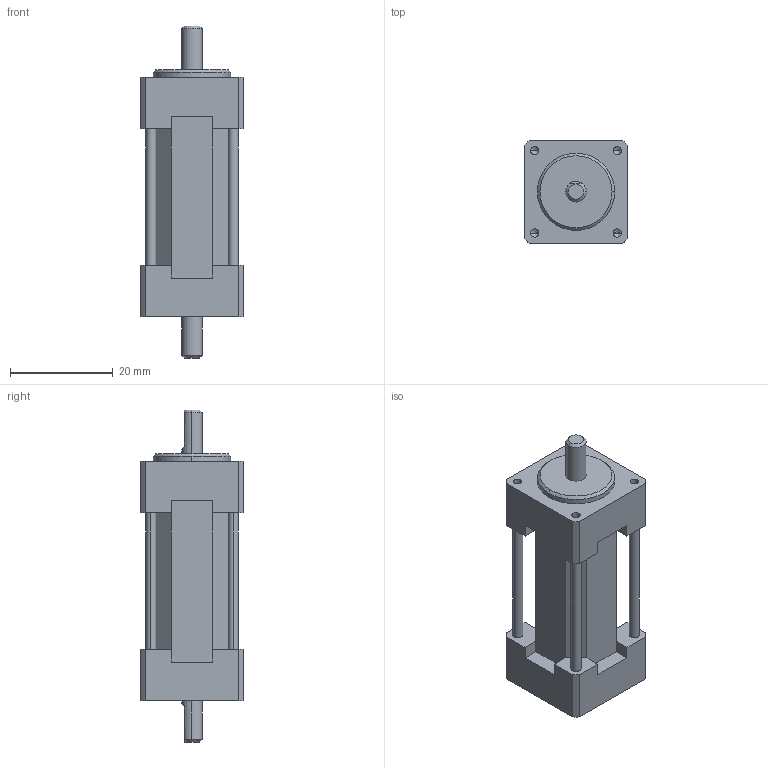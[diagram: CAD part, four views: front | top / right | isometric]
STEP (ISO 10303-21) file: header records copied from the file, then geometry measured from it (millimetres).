
FILE_DESCRIPTION (( 'STEP AP214' ), '1' );
FILE_NAME ('TS3682N12.STEP', '2016-09-09T06:30:58', ( 'hoho' ), ( '' ), 'SwSTEP 2.0', 'SolidWorks 2013', '' );
FILE_SCHEMA (( 'AUTOMOTIVE_DESIGN' ));
Length unit declared in the file: millimetre
Products named in the file (1): TS3682N12
Bounding box: 20 x 20 x 64.5 mm (x, y, z)
Volume: 12936.5 mm3; surface area: 5230.7 mm2
Topology: 1 solids, 1 shells, 103 faces, 262 edges, 160 vertices
Faces by surface type: plane 57, cylinder 30, cone 16
Entity records: 3172 total; most frequent: CARTESIAN_POINT 552, DIRECTION 526, ORIENTED_EDGE 508, EDGE_CURVE 254, VECTOR 178, LINE 178, AXIS2_PLACEMENT_3D 174, VERTEX_POINT 160
